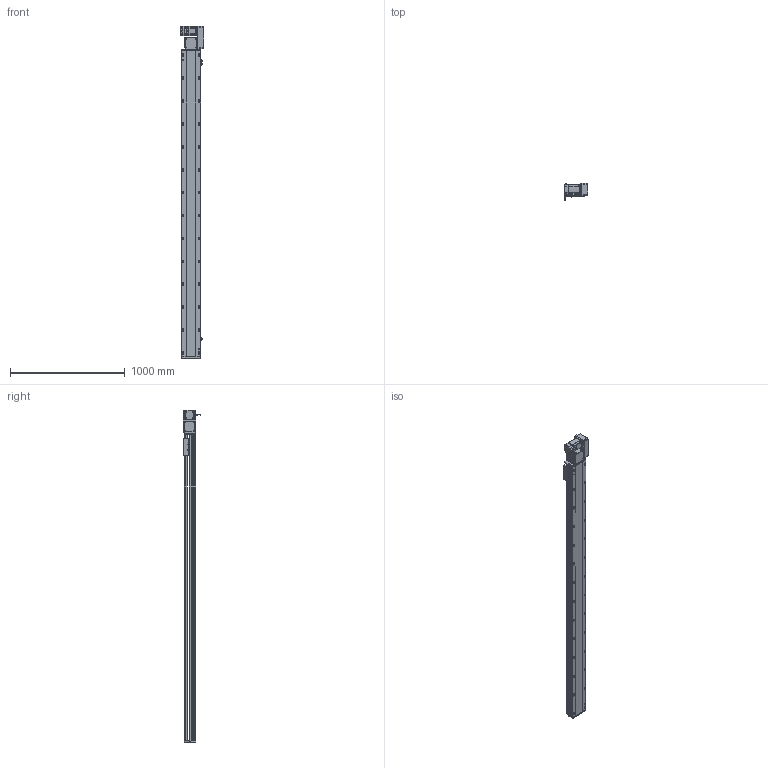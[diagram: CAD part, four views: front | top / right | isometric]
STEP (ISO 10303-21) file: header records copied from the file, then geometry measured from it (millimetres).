
FILE_DESCRIPTION (( 'STEP AP214' ), '1' );
FILE_NAME ('RTB17S-XX-2400-R-M75-C4.STEP', '2025-12-12T01:46:37', ( '' ), ( '' ), 'SwSTEP 2.0', 'SolidWorks 2018', '' );
FILE_SCHEMA (( 'AUTOMOTIVE_DESIGN' ));
Length unit declared in the file: millimetre
Products named in the file (15): RTB22S-GY-017P^RTB17S-R-々湍釱蚾饜-750W_RTB17S-XX-XX-R-M75-C4; RTB17S-賑釱^RTB17S-XX-XX-R-M75-C4; RTB17-R-011菁釱^RTB17S-XX-XX-R-M75-C4; RTB22S-GY-005P^RTB17S-R-々湍釱蚾饜-750W_RTB17S-XX-XX-R-M75-C4; RTB17S-L-014-T20-P75--々湍釱^RTB17S-R-々湍釱蚾饜-750W_RTB17S-XX-XX-R-M75-C4; RTB22S-GY-018P^RTB17S-R-々湍釱蚾饜-750W_RTB17S-XX-XX-R-M75-C4; 750W萇儂^RTB17S-XX-XX-R-M75-C4; RTB22S-GY-008-M75--萇儂啣^RTB17S-R-々湍釱蚾饜-750W_RTB17S-XX-XX-R-M75-C4; RTB17S-L-007奻裔^RTB17S-XX-XX-R-M75-C4; RTB17S-XX-2400-R-M75-C4; EE672^RTB17S-XX-XX-R-M75-C4; RTB17S-R-々湍釱蚾饜-750W^RTB17S-XX-XX-R-M75-C4; RTH13-BL-012覜茼え俋离^RTB17S-賑釱_RTB17S-XX-XX-R-M75-C4; RTB17S-L-004-賑釱^RTB17S-賑釱_RTB17S-XX-XX-R-M75-C4; RTB17S-L-001-耜醱啣^RTB17S-XX-XX-R-M75-C4
Assembly tree (17 placements, depth 3):
  RTB17S-XX-2400-R-M75-C4
    RTB17-R-011菁釱^RTB17S-XX-XX-R-M75-C4
    EE672^RTB17S-XX-XX-R-M75-C4  x3
    RTB17S-L-001-耜醱啣^RTB17S-XX-XX-R-M75-C4
    RTB17S-賑釱^RTB17S-XX-XX-R-M75-C4
      RTB17S-L-004-賑釱^RTB17S-賑釱_RTB17S-XX-XX-R-M75-C4
      RTH13-BL-012覜茼え俋离^RTB17S-賑釱_RTB17S-XX-XX-R-M75-C4
    RTB17S-L-007奻裔^RTB17S-XX-XX-R-M75-C4
    750W萇儂^RTB17S-XX-XX-R-M75-C4
    RTB17S-R-々湍釱蚾饜-750W^RTB17S-XX-XX-R-M75-C4
      RTB17S-L-014-T20-P75--々湍釱^RTB17S-R-々湍釱蚾饜-750W_RTB17S-XX-XX-R-M75-C4
      RTB22S-GY-005P^RTB17S-R-々湍釱蚾饜-750W_RTB17S-XX-XX-R-M75-C4
      RTB22S-GY-017P^RTB17S-R-々湍釱蚾饜-750W_RTB17S-XX-XX-R-M75-C4  x2
      RTB22S-GY-008-M75--萇儂啣^RTB17S-R-々湍釱蚾饜-750W_RTB17S-XX-XX-R-M75-C4
      RTB22S-GY-018P^RTB17S-R-々湍釱蚾饜-750W_RTB17S-XX-XX-R-M75-C4
Bounding box: 207.4 x 152.7 x 2899 mm (x, y, z)
Volume: 20955382.6 mm3; surface area: 3789680.6 mm2
Topology: 17 solids, 17 shells, 2201 faces, 6160 edges, 3986 vertices
Faces by surface type: plane 984, cylinder 801, bspline 294, cone 110, sphere 8, torus 4
Entity records: 63478 total; most frequent: CARTESIAN_POINT 18824, ORIENTED_EDGE 9164, DIRECTION 8492, EDGE_CURVE 4582, AXIS2_PLACEMENT_3D 3006, VERTEX_POINT 2990, LINE 2480, VECTOR 2480
